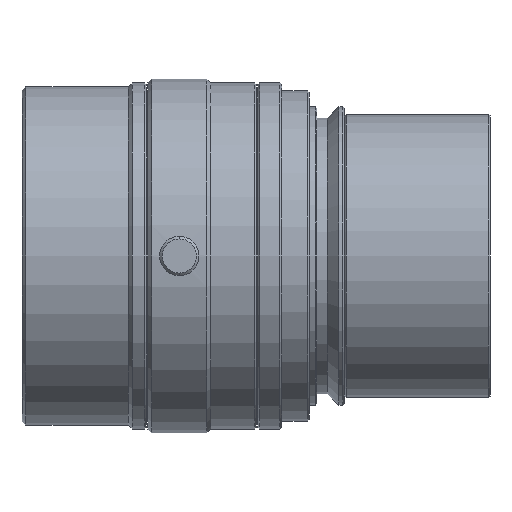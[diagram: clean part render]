
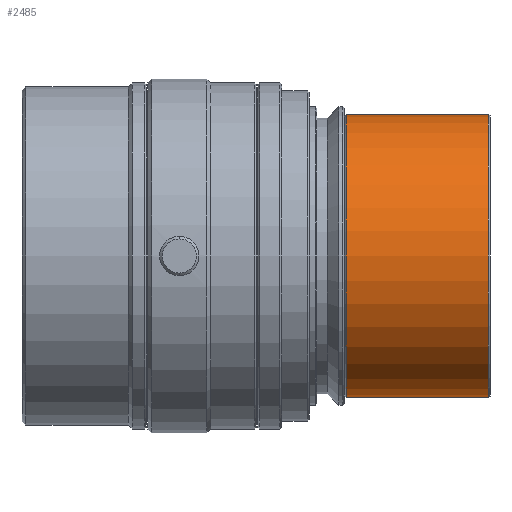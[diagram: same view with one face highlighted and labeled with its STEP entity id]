
A CAD part, front view. The second image highlights one B-rep face of the part: STEP entity #2485.
In plain terms, the highlighted cylindrical face has radius 18 mm (diameter 36 mm), a partial arc.
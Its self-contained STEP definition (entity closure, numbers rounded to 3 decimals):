
#59 = VERTEX_POINT ( 'NONE', #356 ) ;
#61 = FACE_OUTER_BOUND ( 'NONE', #2324, .T. ) ;
#215 = VECTOR ( 'NONE', #293, 1000. ) ;
#223 = VERTEX_POINT ( 'NONE', #3164 ) ;
#293 = DIRECTION ( 'NONE',  ( -1., 0., 0. ) ) ;
#356 = CARTESIAN_POINT ( 'NONE',  ( 59.374, 0., -18. ) ) ;
#444 = CARTESIAN_POINT ( 'NONE',  ( 41.274, 0., 18. ) ) ;
#491 = CARTESIAN_POINT ( 'NONE',  ( 59.374, 0., 0. ) ) ;
#492 = DIRECTION ( 'NONE',  ( 0., 0., 1. ) ) ;
#499 = CYLINDRICAL_SURFACE ( 'NONE', #3248, 18. ) ;
#506 = VERTEX_POINT ( 'NONE', #1022 ) ;
#516 = DIRECTION ( 'NONE',  ( -1., 0., 0. ) ) ;
#619 = ORIENTED_EDGE ( 'NONE', *, *, #3265, .F. ) ;
#753 = DIRECTION ( 'NONE',  ( 0., 0., 1. ) ) ;
#866 = EDGE_CURVE ( 'NONE', #59, #223, #1593, .T. ) ;
#928 = AXIS2_PLACEMENT_3D ( 'NONE', #1075, #2866, #1337 ) ;
#983 = LINE ( 'NONE', #1838, #215 ) ;
#988 = EDGE_CURVE ( 'NONE', #59, #506, #983, .T. ) ;
#1022 = CARTESIAN_POINT ( 'NONE',  ( 41.274, 0., -18. ) ) ;
#1075 = CARTESIAN_POINT ( 'NONE',  ( 41.274, 0., 0. ) ) ;
#1081 = VERTEX_POINT ( 'NONE', #444 ) ;
#1137 = CIRCLE ( 'NONE', #928, 18. ) ;
#1291 = ORIENTED_EDGE ( 'NONE', *, *, #866, .T. ) ;
#1337 = DIRECTION ( 'NONE',  ( 0., 0., 1. ) ) ;
#1593 = CIRCLE ( 'NONE', #2151, 18. ) ;
#1838 = CARTESIAN_POINT ( 'NONE',  ( 0., 0., -18. ) ) ;
#2037 = CARTESIAN_POINT ( 'NONE',  ( 0., 0., 0. ) ) ;
#2151 = AXIS2_PLACEMENT_3D ( 'NONE', #491, #2280, #753 ) ;
#2280 = DIRECTION ( 'NONE',  ( -1., 0., 0. ) ) ;
#2324 = EDGE_LOOP ( 'NONE', ( #2896, #1291, #2539, #619 ) ) ;
#2485 = ADVANCED_FACE ( 'NONE', ( #61 ), #499, .T. ) ;
#2539 = ORIENTED_EDGE ( 'NONE', *, *, #3218, .T. ) ;
#2570 = VECTOR ( 'NONE', #516, 1000. ) ;
#2866 = DIRECTION ( 'NONE',  ( -1., 0., 0. ) ) ;
#2896 = ORIENTED_EDGE ( 'NONE', *, *, #988, .F. ) ;
#3048 = DIRECTION ( 'NONE',  ( -1., 0., 0. ) ) ;
#3085 = CARTESIAN_POINT ( 'NONE',  ( 0., 0., 18. ) ) ;
#3164 = CARTESIAN_POINT ( 'NONE',  ( 59.374, 0., 18. ) ) ;
#3218 = EDGE_CURVE ( 'NONE', #223, #1081, #3254, .T. ) ;
#3248 = AXIS2_PLACEMENT_3D ( 'NONE', #2037, #3048, #492 ) ;
#3254 = LINE ( 'NONE', #3085, #2570 ) ;
#3265 = EDGE_CURVE ( 'NONE', #506, #1081, #1137, .T. ) ;
